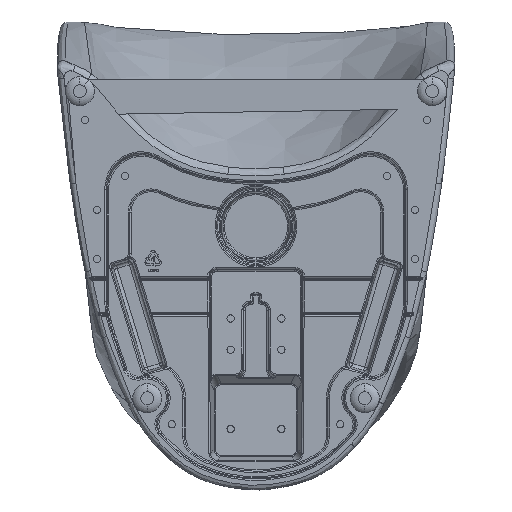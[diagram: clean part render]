
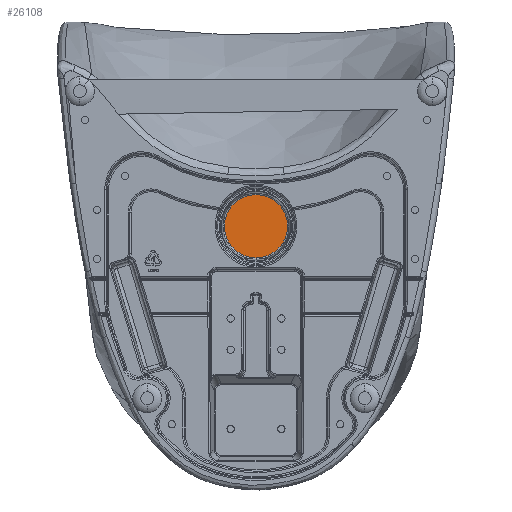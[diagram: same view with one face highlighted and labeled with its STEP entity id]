
A CAD part, front view. The second image highlights one B-rep face of the part: STEP entity #26108.
In plain terms, the highlighted planar face has unit normal (0, -1, 0).
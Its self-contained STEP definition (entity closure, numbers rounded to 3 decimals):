
#11 = PLANE ( 'NONE',  #51548 ) ;
#231 = EDGE_CURVE ( 'NONE', #47662, #44873, #42232, .T. ) ;
#15970 = EDGE_LOOP ( 'NONE', ( #35343, #23560 ) ) ;
#16194 = FACE_OUTER_BOUND ( 'NONE', #15970, .T. ) ;
#20154 = EDGE_CURVE ( 'NONE', #44873, #47662, #31614, .T. ) ;
#23560 = ORIENTED_EDGE ( 'NONE', *, *, #231, .T. ) ;
#23958 = CARTESIAN_POINT ( 'NONE',  ( 0., 64.045, 72. ) ) ;
#24067 = AXIS2_PLACEMENT_3D ( 'NONE', #23958, #28415, #45403 ) ;
#26108 = ADVANCED_FACE ( 'NONE', ( #16194 ), #11, .T. ) ;
#27159 = AXIS2_PLACEMENT_3D ( 'NONE', #38589, #50063, #30728 ) ;
#28415 = DIRECTION ( 'NONE',  ( 0., -1., 0. ) ) ;
#28682 = CARTESIAN_POINT ( 'NONE',  ( 0., 64.045, 28.445 ) ) ;
#30728 = DIRECTION ( 'NONE',  ( 0., 0., -1. ) ) ;
#31614 = CIRCLE ( 'NONE', #24067, 43.555 ) ;
#32091 = CARTESIAN_POINT ( 'NONE',  ( 0., 64.045, 115.555 ) ) ;
#32172 = CARTESIAN_POINT ( 'NONE',  ( 0., 64.045, 72. ) ) ;
#35343 = ORIENTED_EDGE ( 'NONE', *, *, #20154, .T. ) ;
#38589 = CARTESIAN_POINT ( 'NONE',  ( 0., 64.045, 72. ) ) ;
#39253 = DIRECTION ( 'NONE',  ( 0., -1., 0. ) ) ;
#42232 = CIRCLE ( 'NONE', #27159, 43.555 ) ;
#44873 = VERTEX_POINT ( 'NONE', #28682 ) ;
#45403 = DIRECTION ( 'NONE',  ( 0., 0., -1. ) ) ;
#47662 = VERTEX_POINT ( 'NONE', #32091 ) ;
#48087 = DIRECTION ( 'NONE',  ( 0., 0., -1. ) ) ;
#50063 = DIRECTION ( 'NONE',  ( 0., -1., 0. ) ) ;
#51548 = AXIS2_PLACEMENT_3D ( 'NONE', #32172, #39253, #48087 ) ;
